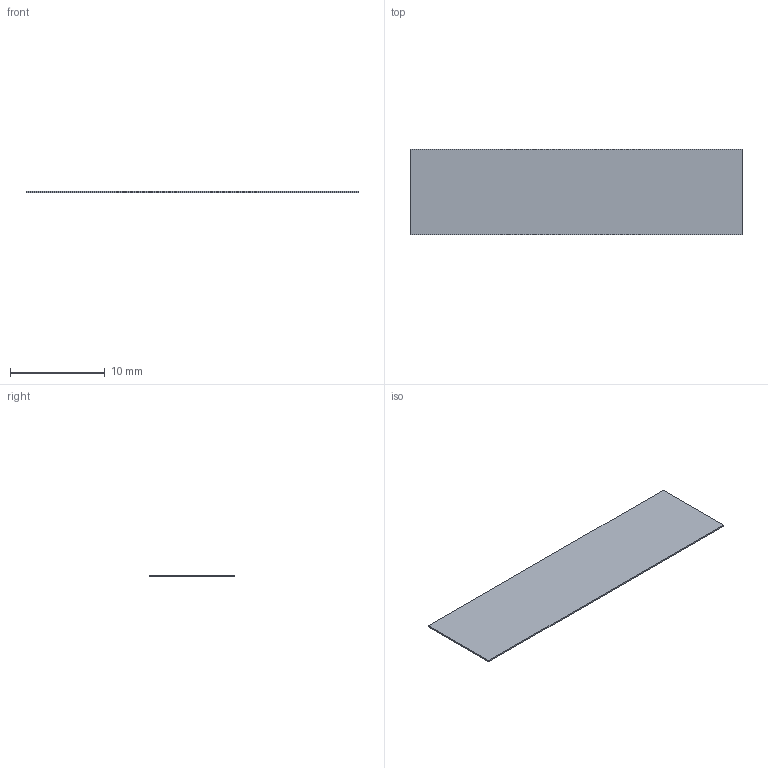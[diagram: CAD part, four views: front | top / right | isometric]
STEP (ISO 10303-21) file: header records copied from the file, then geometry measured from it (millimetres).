
FILE_DESCRIPTION(('AVO Performance Horse - montaje de la cincha (B-rep poliedrico)'),'2;1');
FILE_NAME('Antena_Molex_146153-0050','2026-11-15T12:00:00',('AVO Performance Horse'),('AVO Performance Horse'),'avo_cad.py','avo_cad.py (numpy)','');
FILE_SCHEMA(('AUTOMOTIVE_DESIGN { 1 0 10303 214 1 1 1 1 }'));
Length unit declared in the file: millimetre
Products named in the file (1): Antena_Molex_146153-0050
Bounding box: 35 x 9 x 0.15 mm (x, y, z)
Volume: 47.3 mm3; surface area: 643.2 mm2
Topology: 1 solids, 1 shells, 6 faces, 12 edges, 8 vertices
Faces by surface type: plane 6
Entity records: 139 total; most frequent: ORIENTED_EDGE 24, VECTOR 12, LINE 12, EDGE_CURVE 12, CARTESIAN_POINT 9, DIRECTION 8, VERTEX_POINT 8, AXIS2_PLACEMENT_3D 7
